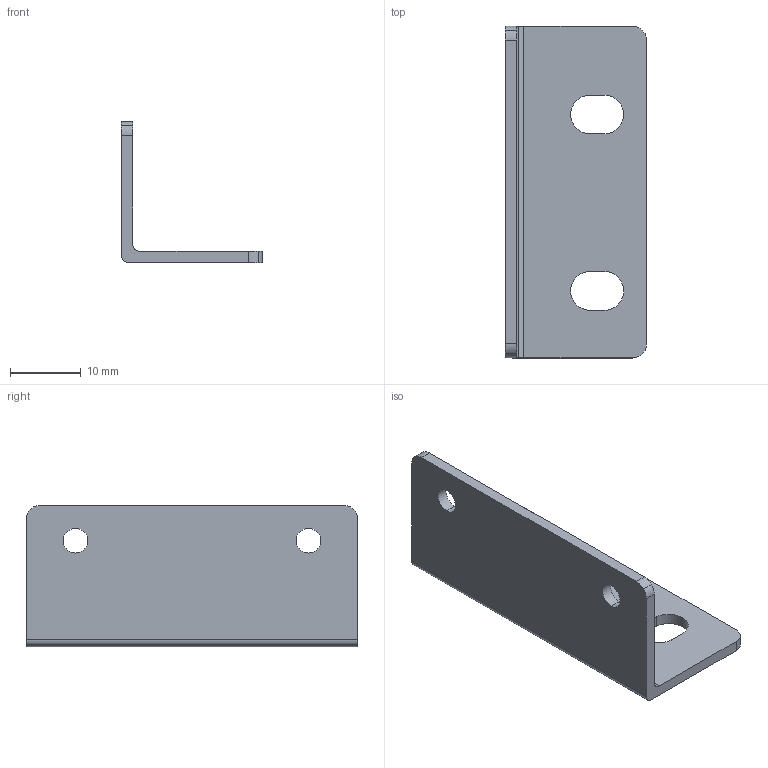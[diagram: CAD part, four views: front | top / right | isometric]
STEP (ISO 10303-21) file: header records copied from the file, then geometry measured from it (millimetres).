
FILE_DESCRIPTION(('STEP AP214'),'1');
FILE_NAME('D:\仕事\テーマ別\3DCAD\FT001 SCN5 フート\tmp0.STP',' ',(' '),(' '),'XStep 1.0',' ',' ');
FILE_SCHEMA(('automotive_design'));
Length unit declared in the file: millimetre
Bounding box: 20 x 47 x 20 mm (x, y, z)
Volume: 2740.2 mm3; surface area: 3756.1 mm2
Topology: 1 solids, 1 shells, 44 faces, 126 edges, 84 vertices
Faces by surface type: cylinder 24, plane 20
Entity records: 1850 total; most frequent: DIRECTION 264, CARTESIAN_POINT 255, ORIENTED_EDGE 252, EDGE_CURVE 126, AXIS2_PLACEMENT_3D 93, VERTEX_POINT 84, LINE 78, VECTOR 78
